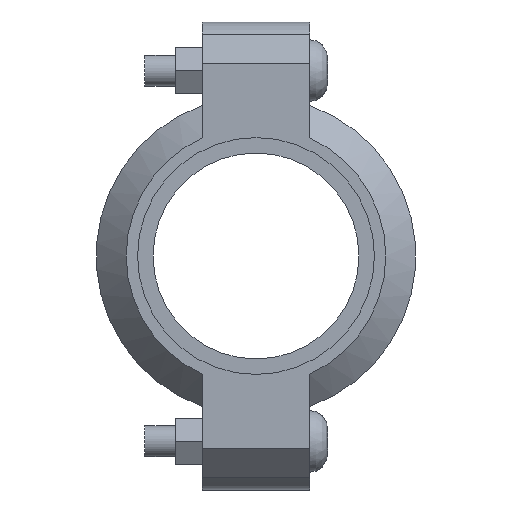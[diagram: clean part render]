
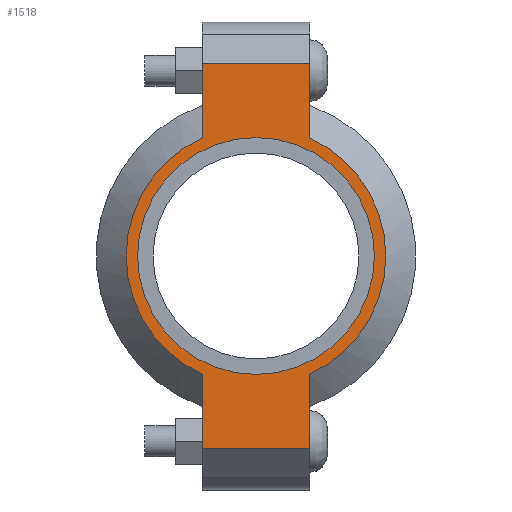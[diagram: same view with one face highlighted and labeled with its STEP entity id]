
A CAD part, left-side view. The second image highlights one B-rep face of the part: STEP entity #1518.
In plain terms, the highlighted planar face has unit normal (-1, 0, 0) as drawn and (0, 0, 1) by its records, which use the part's own axes.
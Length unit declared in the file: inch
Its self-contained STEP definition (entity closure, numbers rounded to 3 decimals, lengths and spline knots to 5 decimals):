
#142=LINE('',#2649,#235);
#150=LINE('',#2685,#243);
#157=LINE('',#2706,#250);
#166=LINE('',#2738,#259);
#167=LINE('',#2742,#260);
#168=LINE('',#2744,#261);
#235=VECTOR('',#2165,0.3937);
#243=VECTOR('',#2181,0.3937);
#250=VECTOR('',#2200,0.3937);
#259=VECTOR('',#2225,0.3937);
#260=VECTOR('',#2230,0.3937);
#261=VECTOR('',#2231,0.3937);
#317=FACE_BOUND('',#495,.T.);
#389=FACE_OUTER_BOUND('',#494,.T.);
#494=EDGE_LOOP('',(#1259,#1260,#1261,#1262,#1263,#1264,#1265,#1266));
#495=EDGE_LOOP('',(#1267));
#567=CIRCLE('',#1737,1.4375);
#593=CIRCLE('',#1796,1.575);
#594=CIRCLE('',#1797,1.575);
#659=VERTEX_POINT('',#2465);
#702=VERTEX_POINT('',#2646);
#703=VERTEX_POINT('',#2648);
#714=VERTEX_POINT('',#2680);
#715=VERTEX_POINT('',#2684);
#722=VERTEX_POINT('',#2703);
#723=VERTEX_POINT('',#2705);
#733=VERTEX_POINT('',#2741);
#734=VERTEX_POINT('',#2743);
#815=EDGE_CURVE('',#659,#659,#567,.T.);
#876=EDGE_CURVE('',#703,#702,#142,.T.);
#890=EDGE_CURVE('',#715,#714,#150,.T.);
#900=EDGE_CURVE('',#723,#722,#157,.T.);
#915=EDGE_CURVE('',#715,#702,#166,.T.);
#916=EDGE_CURVE('',#714,#723,#593,.T.);
#917=EDGE_CURVE('',#733,#722,#167,.T.);
#918=EDGE_CURVE('',#733,#734,#168,.T.);
#919=EDGE_CURVE('',#734,#703,#594,.T.);
#1259=ORIENTED_EDGE('',*,*,#915,.F.);
#1260=ORIENTED_EDGE('',*,*,#890,.T.);
#1261=ORIENTED_EDGE('',*,*,#916,.T.);
#1262=ORIENTED_EDGE('',*,*,#900,.T.);
#1263=ORIENTED_EDGE('',*,*,#917,.F.);
#1264=ORIENTED_EDGE('',*,*,#918,.T.);
#1265=ORIENTED_EDGE('',*,*,#919,.T.);
#1266=ORIENTED_EDGE('',*,*,#876,.T.);
#1267=ORIENTED_EDGE('',*,*,#815,.T.);
#1360=PLANE('',#1795);
#1518=ADVANCED_FACE('',(#389,#317),#1360,.T.);
#1737=AXIS2_PLACEMENT_3D('',#2467,#2041,#2042);
#1795=AXIS2_PLACEMENT_3D('',#2739,#2226,#2227);
#1796=AXIS2_PLACEMENT_3D('',#2740,#2228,#2229);
#1797=AXIS2_PLACEMENT_3D('',#2745,#2232,#2233);
#2041=DIRECTION('center_axis',(0.,0.,-1.));
#2042=DIRECTION('ref_axis',(-1.,0.,0.));
#2165=DIRECTION('',(-1.,0.,0.));
#2181=DIRECTION('',(1.,0.,0.));
#2200=DIRECTION('',(1.,0.,0.));
#2225=DIRECTION('',(0.,1.,0.));
#2226=DIRECTION('center_axis',(0.,0.,1.));
#2227=DIRECTION('ref_axis',(1.,0.,0.));
#2228=DIRECTION('center_axis',(0.,0.,1.));
#2229=DIRECTION('ref_axis',(-1.,0.,0.));
#2230=DIRECTION('',(0.,-1.,0.));
#2231=DIRECTION('',(-1.,0.,0.));
#2232=DIRECTION('center_axis',(0.,0.,1.));
#2233=DIRECTION('ref_axis',(-1.,0.,0.));
#2465=CARTESIAN_POINT('',(1.4375,0.,0.94));
#2467=CARTESIAN_POINT('Origin',(0.,0.,0.94));
#2646=CARTESIAN_POINT('',(-2.34,0.65,0.94));
#2648=CARTESIAN_POINT('',(-1.43462,0.65,0.94));
#2649=CARTESIAN_POINT('',(-2.84,0.65,0.94));
#2680=CARTESIAN_POINT('',(-1.43462,-0.65,0.94));
#2684=CARTESIAN_POINT('',(-2.34,-0.65,0.94));
#2685=CARTESIAN_POINT('',(2.84,-0.65,0.94));
#2703=CARTESIAN_POINT('',(2.34,-0.65,0.94));
#2705=CARTESIAN_POINT('',(1.43462,-0.65,0.94));
#2706=CARTESIAN_POINT('',(2.84,-0.65,0.94));
#2738=CARTESIAN_POINT('',(-2.34,0.325,0.94));
#2739=CARTESIAN_POINT('Origin',(0.,0.,
0.94));
#2740=CARTESIAN_POINT('Origin',(0.,0.,0.94));
#2741=CARTESIAN_POINT('',(2.34,0.65,0.94));
#2742=CARTESIAN_POINT('',(2.34,-0.325,0.94));
#2743=CARTESIAN_POINT('',(1.43462,0.65,0.94));
#2744=CARTESIAN_POINT('',(-2.84,0.65,0.94));
#2745=CARTESIAN_POINT('Origin',(0.,0.,0.94));
